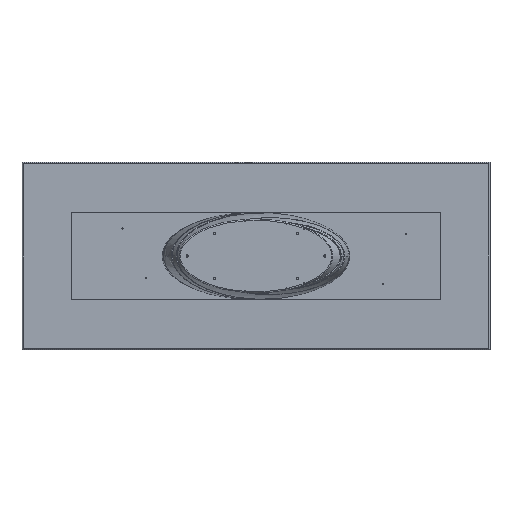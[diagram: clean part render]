
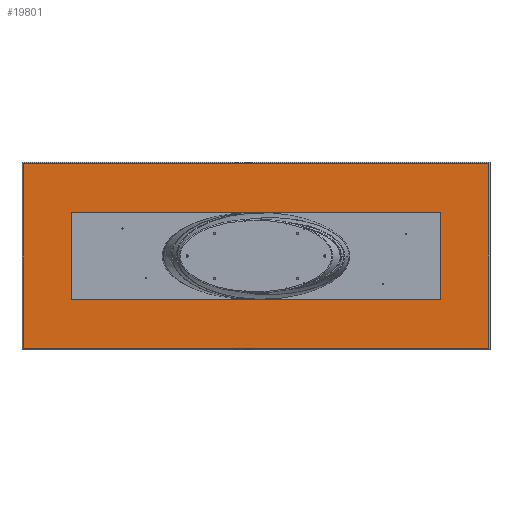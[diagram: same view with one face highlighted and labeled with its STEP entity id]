
A CAD part, front view. The second image highlights one B-rep face of the part: STEP entity #19801.
In plain terms, the highlighted planar face has unit normal (0, -1, 0).
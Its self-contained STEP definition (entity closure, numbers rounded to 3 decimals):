
#1397 = CARTESIAN_POINT ( 'NONE',  ( 0., 50., 592. ) ) ;
#3122 = LINE ( 'NONE', #9300, #32996 ) ;
#4016 = DIRECTION ( 'NONE',  ( -1., 0., 0. ) ) ;
#4258 = DIRECTION ( 'NONE',  ( 0., 1., 0. ) ) ;
#7247 = CARTESIAN_POINT ( 'NONE',  ( -1492., 50., 0. ) ) ;
#8364 = EDGE_CURVE ( 'NONE', #34467, #35191, #3122, .T. ) ;
#9300 = CARTESIAN_POINT ( 'NONE',  ( 1492., 50., 0. ) ) ;
#10192 = LINE ( 'NONE', #1397, #10883 ) ;
#10264 = EDGE_LOOP ( 'NONE', ( #31424, #20941, #11791, #30874 ) ) ;
#10883 = VECTOR ( 'NONE', #4016, 1000. ) ;
#11503 = VECTOR ( 'NONE', #30106, 1000. ) ;
#11791 = ORIENTED_EDGE ( 'NONE', *, *, #17479, .T. ) ;
#13592 = EDGE_CURVE ( 'NONE', #35191, #16871, #10192, .T. ) ;
#15504 = FACE_OUTER_BOUND ( 'NONE', #10264, .T. ) ;
#15871 = LINE ( 'NONE', #7247, #11503 ) ;
#16871 = VERTEX_POINT ( 'NONE', #27462 ) ;
#16947 = CARTESIAN_POINT ( 'NONE',  ( 1492., 50., 592. ) ) ;
#17479 = EDGE_CURVE ( 'NONE', #16871, #23755, #15871, .T. ) ;
#17863 = DIRECTION ( 'NONE',  ( 1., 0., 0. ) ) ;
#19801 = ADVANCED_FACE ( 'NONE', ( #15504 ), #32916, .F. ) ;
#20666 = LINE ( 'NONE', #32115, #36188 ) ;
#20941 = ORIENTED_EDGE ( 'NONE', *, *, #13592, .T. ) ;
#23373 = CARTESIAN_POINT ( 'NONE',  ( 1492., 50., -592. ) ) ;
#23755 = VERTEX_POINT ( 'NONE', #36878 ) ;
#26920 = CARTESIAN_POINT ( 'NONE',  ( 0., 50., 0. ) ) ;
#27106 = DIRECTION ( 'NONE',  ( 0., 0., 1. ) ) ;
#27462 = CARTESIAN_POINT ( 'NONE',  ( -1492., 50., 592. ) ) ;
#30106 = DIRECTION ( 'NONE',  ( 0., 0., -1. ) ) ;
#30874 = ORIENTED_EDGE ( 'NONE', *, *, #36474, .T. ) ;
#31424 = ORIENTED_EDGE ( 'NONE', *, *, #8364, .T. ) ;
#31969 = DIRECTION ( 'NONE',  ( 0., 0., 1. ) ) ;
#32115 = CARTESIAN_POINT ( 'NONE',  ( 0., 50., -592. ) ) ;
#32432 = AXIS2_PLACEMENT_3D ( 'NONE', #26920, #4258, #27106 ) ;
#32916 = PLANE ( 'NONE',  #32432 ) ;
#32996 = VECTOR ( 'NONE', #31969, 1000. ) ;
#34467 = VERTEX_POINT ( 'NONE', #23373 ) ;
#35191 = VERTEX_POINT ( 'NONE', #16947 ) ;
#36188 = VECTOR ( 'NONE', #17863, 1000. ) ;
#36474 = EDGE_CURVE ( 'NONE', #23755, #34467, #20666, .T. ) ;
#36878 = CARTESIAN_POINT ( 'NONE',  ( -1492., 50., -592. ) ) ;
